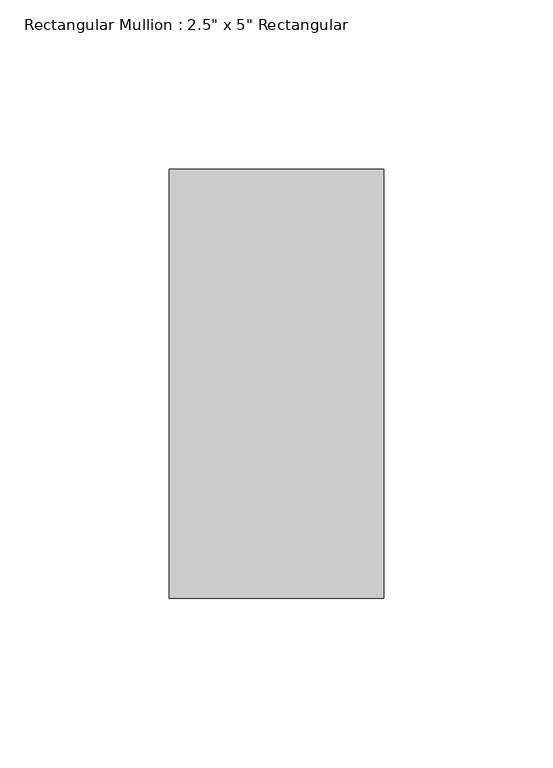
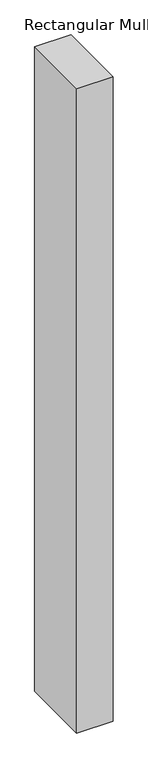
"""IFC4 building model written with IfcOpenShell, lengths in millimetres: member geometry."""

from ifc_helpers import new_model, si_unit, frame, origin, place, context, project, spatial, polyline, outline, extrude, source, transform, mapped, element, save


def member_b3f2e294(model_context):
    return source(origin(), model_context, "Body", "SweptSolid", [
        extrude(outline(polyline([(31.75, 63.5), (31.75, -63.5), (-31.75, -63.5), (-31.75, 63.5), (31.75, 63.5)])), frame((0.0, 0.0, -1187.45), z_axis=(0.0, 0.0, 1.0), x_axis=(1.0, 0.0, 0.0)), (0.0, 0.0, 1.0), 1187.45),
    ])


if __name__ == "__main__":
    model = new_model("IFC4")
    model_context = context("Model", 3, world=origin())
    ifc_project = project(units=[si_unit("LENGTHUNIT", "METRE", prefix="MILLI")], contexts=[model_context])
    site = spatial("IfcSite", under=ifc_project)
    building = spatial("IfcBuilding", under=site)
    placement = place(None, origin())
    member_shape = member_b3f2e294(model_context)
    element("IfcMember", 1, ObjectType="Rectangular Mullion : 2.5\" x 5\" Rectangular", at=placement, inside=building, context=model_context, shape_type="MappedRepresentation", body=[
        mapped(member_shape, transform((0.0, 0.0, 0.0), x_axis=(1.0, 0.0, 0.0), y_axis=(0.0, 1.0, 0.0), z_axis=(0.0, 0.0, 1.0))),
    ])
    save(model, "model.ifc")
